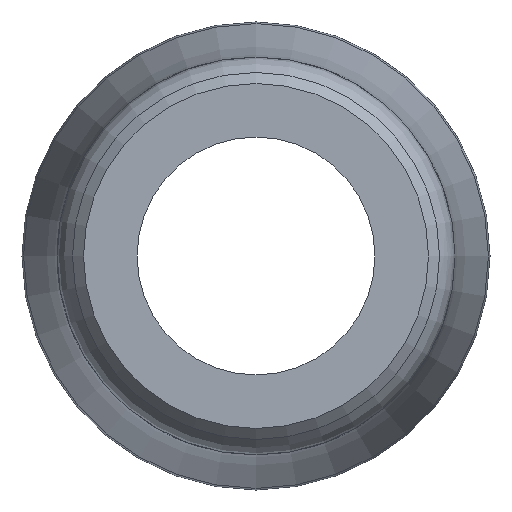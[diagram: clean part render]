
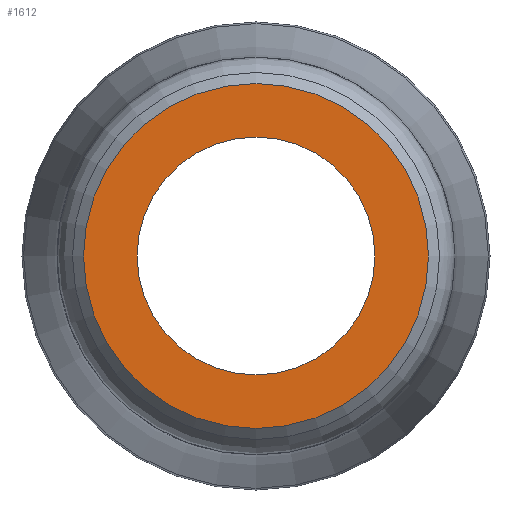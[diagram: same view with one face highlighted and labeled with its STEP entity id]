
A CAD part, left-side view. The second image highlights one B-rep face of the part: STEP entity #1612.
In plain terms, the highlighted planar face has unit normal (-1, 0, 0).
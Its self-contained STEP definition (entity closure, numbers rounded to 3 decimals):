
#251=PLANE('',#1757);
#338=FACE_BOUND('',#479,.T.);
#376=FACE_OUTER_BOUND('',#478,.T.);
#478=EDGE_LOOP('',(#1140));
#479=EDGE_LOOP('',(#1141));
#609=CIRCLE('',#1755,21.378);
#611=CIRCLE('',#1758,14.743);
#710=VERTEX_POINT('',#2758);
#712=VERTEX_POINT('',#2763);
#875=EDGE_CURVE('',#710,#710,#609,.T.);
#877=EDGE_CURVE('',#712,#712,#611,.T.);
#1140=ORIENTED_EDGE('',*,*,#875,.F.);
#1141=ORIENTED_EDGE('',*,*,#877,.T.);
#1612=ADVANCED_FACE('',(#376,#338),#251,.T.);
#1755=AXIS2_PLACEMENT_3D('',#2759,#2023,#2024);
#1757=AXIS2_PLACEMENT_3D('',#2762,#2027,#2028);
#1758=AXIS2_PLACEMENT_3D('',#2764,#2029,#2030);
#2023=DIRECTION('center_axis',(1.,0.,0.));
#2024=DIRECTION('ref_axis',(0.,-1.,0.));
#2027=DIRECTION('center_axis',(-1.,0.,0.));
#2028=DIRECTION('ref_axis',(0.,0.,1.));
#2029=DIRECTION('center_axis',(1.,0.,0.));
#2030=DIRECTION('ref_axis',(0.,0.,-1.));
#2758=CARTESIAN_POINT('',(0.,21.378,0.));
#2759=CARTESIAN_POINT('Origin',(0.,0.,0.));
#2762=CARTESIAN_POINT('Origin',(0.,22.743,0.));
#2763=CARTESIAN_POINT('',(0.,14.743,0.));
#2764=CARTESIAN_POINT('Origin',(0.,0.,0.));
